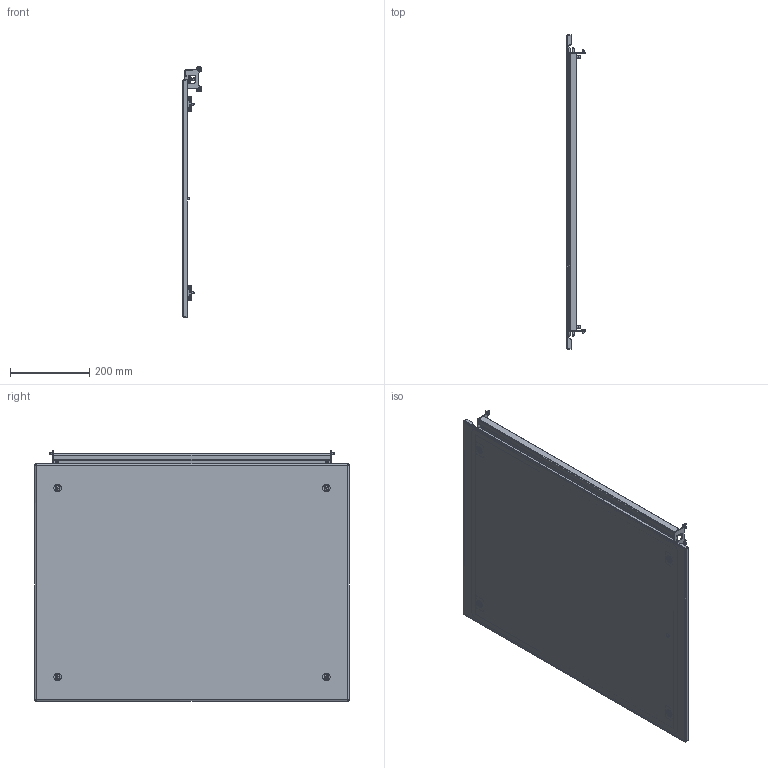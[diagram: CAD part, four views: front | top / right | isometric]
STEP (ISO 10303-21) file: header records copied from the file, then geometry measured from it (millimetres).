
FILE_DESCRIPTION(('STEP AP203'), '1');
FILE_NAME('3630 Ñåêöèîííàÿ ïàíåëü íà âèíòàõ (äëÿ çàêðûòèÿ ñåêöèè) ÑÁ', '', ('UNSPECIFIED'), ('UNSPECIFIED'), 'C3D Converter', 'C3D Toolkit', '');
FILE_SCHEMA(('CONFIG_CONTROL_DESIGN'));
Length unit declared in the file: millimetre
Products named in the file (18): 3630.60.80 СБ; 3631.60.80; 3632.60.80; 3600.80; 3601.80; 3624; 3625; 3604; 3654; 203-0655.61;  202-1103.15-00530
Assembly tree (39 placements, depth 4):
  3630.60.80 СБ
    3631.60.80
      3632.60.80
      (unnamed)
    3600.80
      3601.80
      3624  x2
        3625
        (unnamed)
      (unnamed)  x2
      (unnamed)  x2
      (unnamed)  x4
    3604  x4
      3654
      (unnamed)
    203-0655.61  x4
     202-1103.15-00530  x4
    (unnamed)  x8
Bounding box: 48.98 x 791 x 629.7 mm (x, y, z)
Volume: 1102613.1 mm3; surface area: 1282535.4 mm2
Topology: 40 solids, 40 shells, 1150 faces, 2892 edges, 1888 vertices
Faces by surface type: plane 665, cylinder 265, bspline 96, cone 73, torus 41, sphere 10
Full cylindrical faces by diameter (mm): 4 x4, 4.134 x6, 4.8 x8, 5 x10, 5.2 x8, 5.3 x2, 5.8 x2, 6 x1, 6.38 x4, 6.4 x4, 6.5 x2, 6.8 x2, 7.5 x12, 7.74 x4, 8.7 x4, 9.2 x4, 9.5 x10, 10 x2, 11.5 x2
Entity records: 19412 total; most frequent: CARTESIAN_POINT 6811, DIRECTION 2273, ORIENTED_EDGE 2080, EDGE_CURVE 1040, AXIS2_PLACEMENT_3D 807, VERTEX_POINT 681, LINE 659, VECTOR 659
